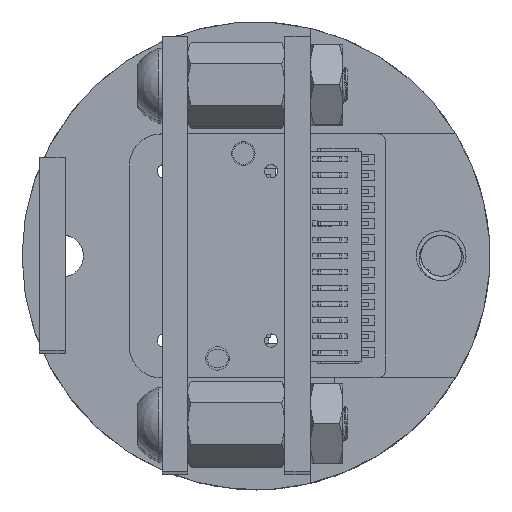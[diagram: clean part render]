
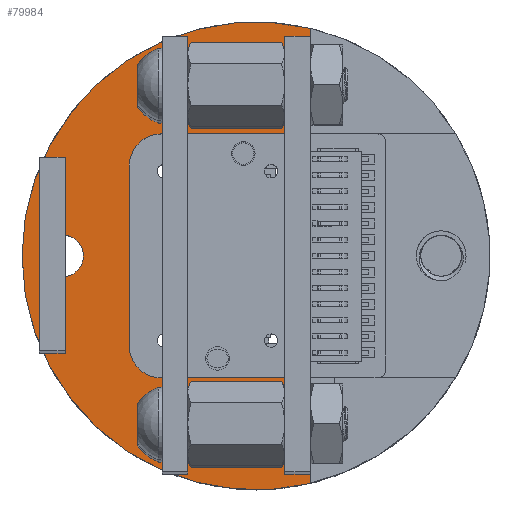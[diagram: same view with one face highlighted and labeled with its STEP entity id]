
A CAD part, top view. The second image highlights one B-rep face of the part: STEP entity #79984.
In plain terms, the highlighted planar face has unit normal (0, 0, 1).
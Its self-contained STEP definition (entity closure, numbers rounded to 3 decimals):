
#2653=FACE_BOUND('',#12020,.T.);
#3848=CIRCLE('',#85462,1.3);
#3850=CIRCLE('',#85465,1.3);
#3852=CIRCLE('',#85467,1.3);
#3856=CIRCLE('',#85473,1.3);
#3858=CIRCLE('',#85475,1.3);
#3867=CIRCLE('',#85496,14.5);
#3871=CIRCLE('',#85500,14.5);
#3874=CIRCLE('',#85534,2.);
#3875=CIRCLE('',#85535,2.);
#7705=FACE_OUTER_BOUND('',#12019,.T.);
#12019=EDGE_LOOP('',(#70668,#70669,#70670,#70671,#70672,#70673,#70674,#70675,
#70676,#70677,#70678,#70679,#70680,#70681,#70682));
#12020=EDGE_LOOP('',(#70683));
#21354=LINE('',#129971,#30539);
#21376=LINE('',#133546,#30561);
#21387=LINE('',#133570,#30572);
#21388=LINE('',#133571,#30573);
#21389=LINE('',#133573,#30574);
#21390=LINE('',#133574,#30575);
#21391=LINE('',#133579,#30576);
#30539=VECTOR('',#104524,10.);
#30561=VECTOR('',#104618,10.);
#30572=VECTOR('',#104647,10.);
#30573=VECTOR('',#104648,10.);
#30574=VECTOR('',#104651,10.);
#30575=VECTOR('',#104652,10.);
#30576=VECTOR('',#104657,10.);
#37606=VERTEX_POINT('',#128898);
#37608=VERTEX_POINT('',#128904);
#37609=VERTEX_POINT('',#128905);
#37611=VERTEX_POINT('',#128910);
#37612=VERTEX_POINT('',#128917);
#37613=VERTEX_POINT('',#128918);
#37615=VERTEX_POINT('',#128923);
#37625=VERTEX_POINT('',#129968);
#37626=VERTEX_POINT('',#129970);
#37666=VERTEX_POINT('',#131707);
#37670=VERTEX_POINT('',#131715);
#37671=VERTEX_POINT('',#131717);
#37725=VERTEX_POINT('',#133543);
#37726=VERTEX_POINT('',#133545);
#37731=VERTEX_POINT('',#133576);
#37732=VERTEX_POINT('',#133578);
#48626=EDGE_CURVE('',#37606,#37606,#3848,.T.);
#48629=EDGE_CURVE('',#37608,#37609,#3850,.T.);
#48632=EDGE_CURVE('',#37609,#37611,#3852,.T.);
#48636=EDGE_CURVE('',#37612,#37613,#3856,.T.);
#48639=EDGE_CURVE('',#37613,#37615,#3858,.T.);
#48661=EDGE_CURVE('',#37625,#37626,#21354,.T.);
#48725=EDGE_CURVE('',#37670,#37671,#3867,.T.);
#48732=EDGE_CURVE('',#37671,#37666,#3871,.T.);
#48820=EDGE_CURVE('',#37725,#37726,#21376,.T.);
#48833=EDGE_CURVE('',#37612,#37726,#21387,.T.);
#48834=EDGE_CURVE('',#37670,#37615,#21388,.T.);
#48835=EDGE_CURVE('',#37608,#37666,#21389,.T.);
#48836=EDGE_CURVE('',#37625,#37611,#21390,.T.);
#48837=EDGE_CURVE('',#37731,#37725,#3874,.T.);
#48838=EDGE_CURVE('',#37732,#37731,#21391,.T.);
#48839=EDGE_CURVE('',#37626,#37732,#3875,.T.);
#70668=ORIENTED_EDGE('',*,*,#48661,.F.);
#70669=ORIENTED_EDGE('',*,*,#48836,.T.);
#70670=ORIENTED_EDGE('',*,*,#48632,.F.);
#70671=ORIENTED_EDGE('',*,*,#48629,.F.);
#70672=ORIENTED_EDGE('',*,*,#48835,.T.);
#70673=ORIENTED_EDGE('',*,*,#48732,.F.);
#70674=ORIENTED_EDGE('',*,*,#48725,.F.);
#70675=ORIENTED_EDGE('',*,*,#48834,.T.);
#70676=ORIENTED_EDGE('',*,*,#48639,.F.);
#70677=ORIENTED_EDGE('',*,*,#48636,.F.);
#70678=ORIENTED_EDGE('',*,*,#48833,.T.);
#70679=ORIENTED_EDGE('',*,*,#48820,.F.);
#70680=ORIENTED_EDGE('',*,*,#48837,.F.);
#70681=ORIENTED_EDGE('',*,*,#48838,.F.);
#70682=ORIENTED_EDGE('',*,*,#48839,.F.);
#70683=ORIENTED_EDGE('',*,*,#48626,.T.);
#76266=PLANE('',#85533);
#79984=ADVANCED_FACE('',(#7705,#2653),#76266,.F.);
#85462=AXIS2_PLACEMENT_3D('',#128899,#104464,#104465);
#85465=AXIS2_PLACEMENT_3D('',#128906,#104471,#104472);
#85467=AXIS2_PLACEMENT_3D('',#128911,#104476,#104477);
#85473=AXIS2_PLACEMENT_3D('',#128919,#104488,#104489);
#85475=AXIS2_PLACEMENT_3D('',#128924,#104493,#104494);
#85496=AXIS2_PLACEMENT_3D('',#131718,#104548,#104549);
#85500=AXIS2_PLACEMENT_3D('',#131730,#104559,#104560);
#85533=AXIS2_PLACEMENT_3D('',#133575,#104653,#104654);
#85534=AXIS2_PLACEMENT_3D('',#133577,#104655,#104656);
#85535=AXIS2_PLACEMENT_3D('',#133580,#104658,#104659);
#104464=DIRECTION('center_axis',(0.,0.,
-1.));
#104465=DIRECTION('ref_axis',(1.,0.,0.));
#104471=DIRECTION('center_axis',(0.,0.,
1.));
#104472=DIRECTION('ref_axis',(1.,0.,0.));
#104476=DIRECTION('center_axis',(0.,0.,
1.));
#104477=DIRECTION('ref_axis',(1.,0.,0.));
#104488=DIRECTION('center_axis',(0.,0.,
1.));
#104489=DIRECTION('ref_axis',(1.,0.,0.));
#104493=DIRECTION('center_axis',(0.,0.,
1.));
#104494=DIRECTION('ref_axis',(1.,0.,0.));
#104524=DIRECTION('',(-1.,0.,0.));
#104548=DIRECTION('center_axis',(0.,0.,
-1.));
#104549=DIRECTION('ref_axis',(1.,0.,0.));
#104559=DIRECTION('center_axis',(0.,0.,
-1.));
#104560=DIRECTION('ref_axis',(1.,0.,0.));
#104618=DIRECTION('',(1.,0.,0.));
#104647=DIRECTION('',(0.,1.,0.));
#104648=DIRECTION('',(0.,1.,0.));
#104651=DIRECTION('',(0.,1.,0.));
#104652=DIRECTION('',(0.,1.,0.));
#104653=DIRECTION('center_axis',(0.,0.,
-1.));
#104654=DIRECTION('ref_axis',(0.,-1.,0.));
#104655=DIRECTION('center_axis',(0.,0.,
1.));
#104656=DIRECTION('ref_axis',(-1.,0.,0.));
#104657=DIRECTION('',(0.,-1.,0.));
#104658=DIRECTION('center_axis',(0.,0.,
1.));
#104659=DIRECTION('ref_axis',(0.,1.,0.));
#128898=CARTESIAN_POINT('',(-13.3,0.,9.418));
#128899=CARTESIAN_POINT('Origin',(-12.,0.,
9.418));
#128904=CARTESIAN_POINT('',(3.378,12.79,9.418));
#128905=CARTESIAN_POINT('',(1.37,11.699,9.418));
#128906=CARTESIAN_POINT('Origin',(2.67,11.699,9.418));
#128910=CARTESIAN_POINT('',(3.378,10.608,9.418));
#128911=CARTESIAN_POINT('Origin',(2.67,11.699,9.418));
#128917=CARTESIAN_POINT('',(3.378,-10.608,9.418));
#128918=CARTESIAN_POINT('',(1.37,-11.699,9.418));
#128919=CARTESIAN_POINT('Origin',(2.67,-11.699,9.418));
#128923=CARTESIAN_POINT('',(3.378,-12.79,9.418));
#128924=CARTESIAN_POINT('Origin',(2.67,-11.699,9.418));
#129968=CARTESIAN_POINT('',(3.378,7.565,9.418));
#129970=CARTESIAN_POINT('',(-5.863,7.565,9.418));
#129971=CARTESIAN_POINT('',(-2.043,7.565,9.418));
#131707=CARTESIAN_POINT('',(3.378,14.101,9.418));
#131715=CARTESIAN_POINT('',(3.378,-14.101,9.418));
#131717=CARTESIAN_POINT('',(-14.5,0.,9.418));
#131718=CARTESIAN_POINT('Origin',(0.,0.,
9.418));
#131730=CARTESIAN_POINT('Origin',(0.,0.,
9.418));
#133543=CARTESIAN_POINT('',(-5.863,-7.565,9.418));
#133545=CARTESIAN_POINT('',(3.378,-7.565,9.418));
#133546=CARTESIAN_POINT('',(4.655,-7.565,9.418));
#133570=CARTESIAN_POINT('',(3.378,-19.,9.418));
#133571=CARTESIAN_POINT('',(3.378,-19.,9.418));
#133573=CARTESIAN_POINT('',(3.378,-19.,9.418));
#133574=CARTESIAN_POINT('',(3.378,-19.,9.418));
#133575=CARTESIAN_POINT('Origin',(1.778,16.,9.418));
#133576=CARTESIAN_POINT('',(-7.863,-5.565,9.418));
#133577=CARTESIAN_POINT('Origin',(-5.863,-5.565,9.418));
#133578=CARTESIAN_POINT('',(-7.863,5.565,9.418));
#133579=CARTESIAN_POINT('',(-7.863,5.218,9.418));
#133580=CARTESIAN_POINT('Origin',(-5.863,5.565,9.418));
